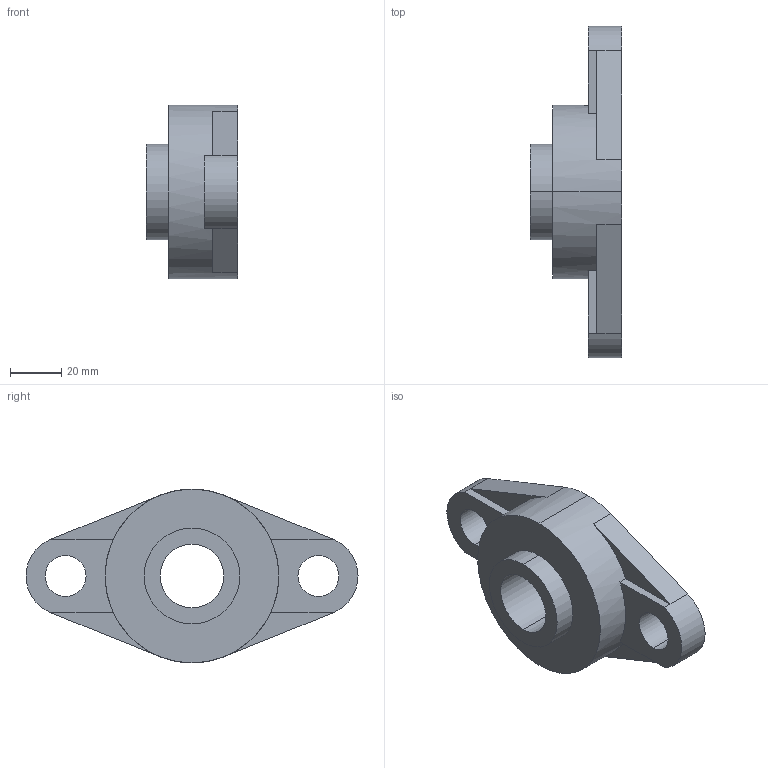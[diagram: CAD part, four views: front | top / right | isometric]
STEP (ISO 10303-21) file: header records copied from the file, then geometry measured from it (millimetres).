
FILE_DESCRIPTION (( 'STEP AP203' ), '1' );
FILE_NAME ('UCFL 205.STEP', '2013-09-20T08:16:36', ( '' ), ( '' ), 'SwSTEP 2.0', 'SolidWorks 2010', '' );
FILE_SCHEMA (( 'CONFIG_CONTROL_DESIGN' ));
Length unit declared in the file: millimetre
Products named in the file (1): UCFL 205
Bounding box: 35.7 x 130 x 68 mm (x, y, z)
Volume: 113507.8 mm3; surface area: 22419.3 mm2
Topology: 1 solids, 1 shells, 29 faces, 78 edges, 52 vertices
Faces by surface type: plane 14, cylinder 12, bspline 3
Entity records: 1103 total; most frequent: CARTESIAN_POINT 265, DIRECTION 162, ORIENTED_EDGE 156, EDGE_CURVE 78, AXIS2_PLACEMENT_3D 61, VERTEX_POINT 52, VECTOR 40, LINE 40
